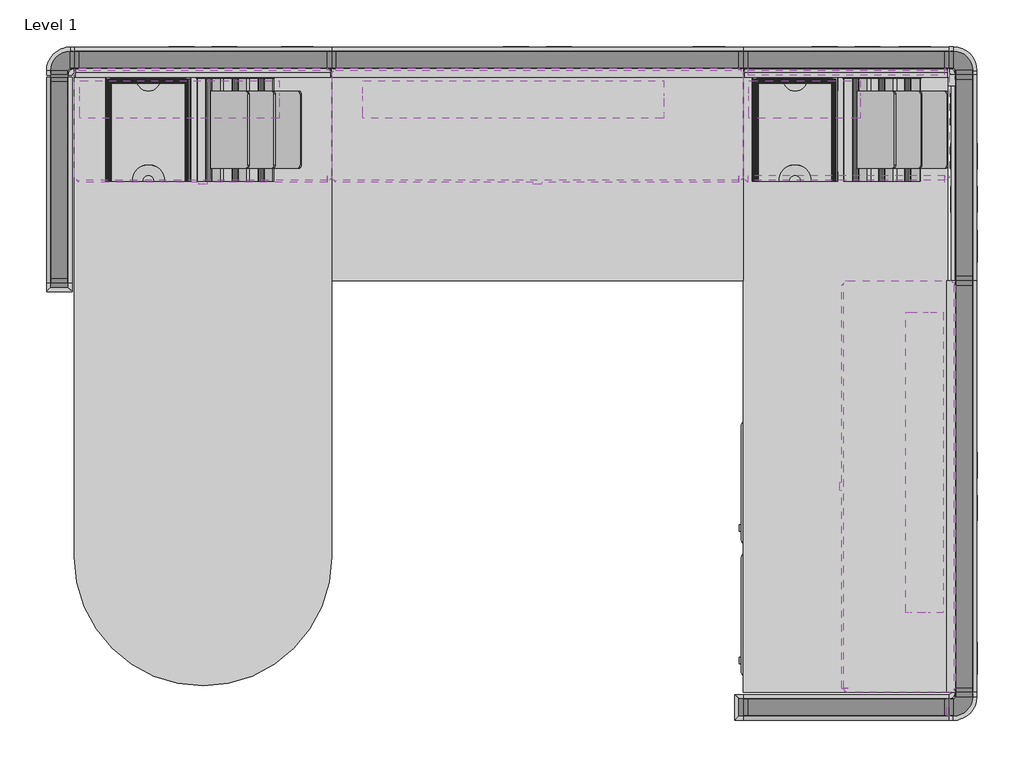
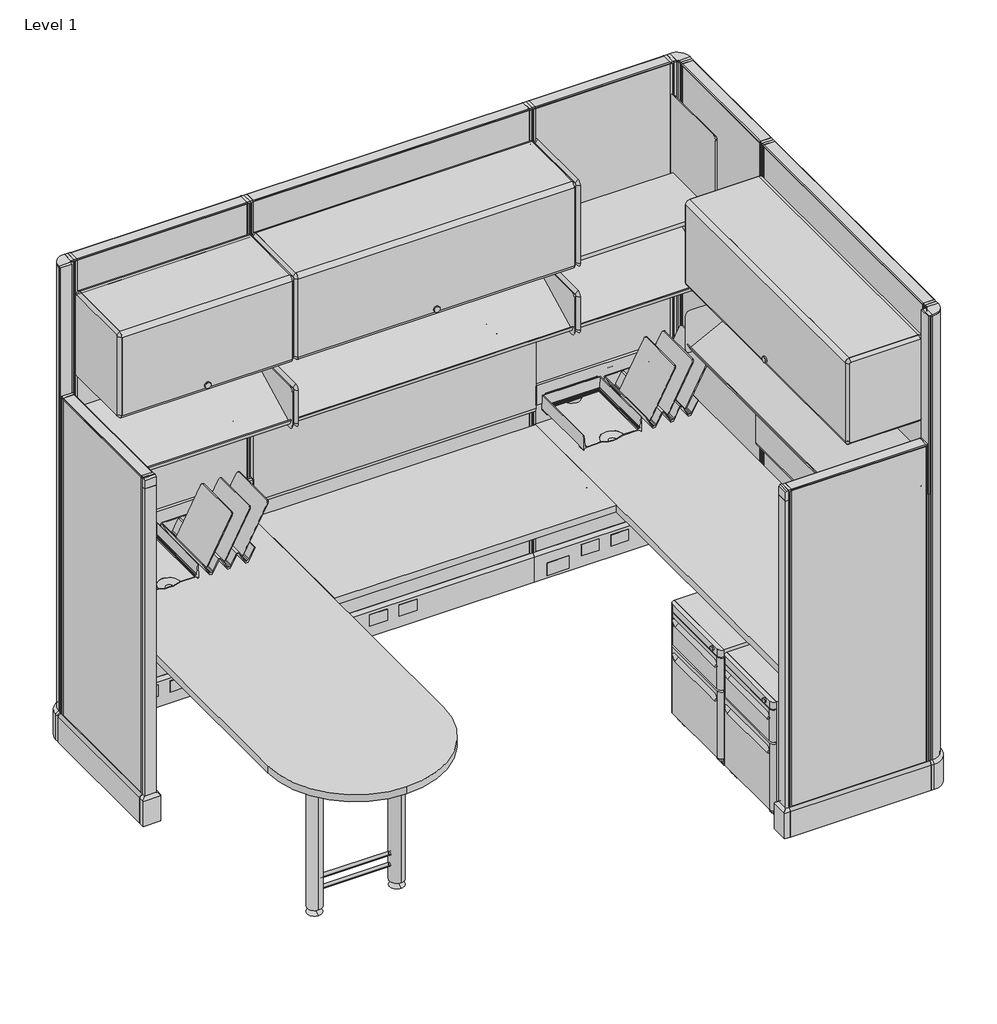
# One storey, incomplete: 36 furniture elements, 4 light fixtures.
"""IFC4 building model written with IfcOpenShell, lengths in millimetres."""

from ifc_helpers import new_model, si_unit, origin, place, context, project, spatial, transform, mapped, element, save
from components import furniture_84c54a78, furniture_0882e81d, furniture_31a6571c, furniture_314199cd, furniture_9b7a8d55, furniture_083a197f, furniture_f3dbc57d, furniture_2231b875, furniture_371e57b5, furniture_3e50636a, furniture_4dcc41e3, furniture_cb78dd66, furniture_6a59721d, furniture_4d9edb30, furniture_a2665887, furniture_75fc3fe0, furniture_5b942465, furniture_14ad5853, furniture_b927cfb1, furniture_fb8f7aeb, furniture_14ab3327, furniture_0fa552dd, furniture_d6d106ba, light_fixture_6c250f8a, light_fixture_b5f3cc62, light_fixture_d29e1486

model = new_model("IFC4")

# Units and contexts
model_context = context("Model", 3, world=origin())
ifc_project = project(units=[si_unit("LENGTHUNIT", "METRE", prefix="MILLI")], contexts=[model_context])

# Site, building, storey
site = spatial("IfcSite", under=ifc_project)
building = spatial("IfcBuilding", under=site)
storey = spatial("IfcBuildingStorey", under=building, Name="Level 1", Elevation=0.0)

# Furniture
placement = place(None, origin())
furniture_shape = furniture_84c54a78(model_context)
element("IfcFurniture", 1, ObjectType="HermanMiller_QuadrantFiling_G5111_MobilePedestal : 21-1/2\"H x 20\"D x 15\"W BF", at=placement, inside=storey, context=model_context, shape_type="MappedRepresentation", body=[
    mapped(furniture_shape, transform((2238.517237, -1599.1274835, 0.0), x_axis=(0.0, -1.0, 0.0), y_axis=(1.0, 0.0, 0.0), z_axis=(0.0, 0.0, 1.0))),
])
element("IfcFurniture", 2, ObjectType="HermanMiller_QuadrantFiling_G5111_MobilePedestal : 21-1/2\"H x 20\"D x 15\"W BF", at=placement, inside=storey, context=model_context, shape_type="MappedRepresentation", body=[
    mapped(furniture_shape, transform((2238.517237, -1207.5560035, 0.0), x_axis=(0.0, -1.0, 0.0), y_axis=(1.0, 0.0, 0.0), z_axis=(0.0, 0.0, 1.0))),
])
furniture_2_shape = furniture_0882e81d(model_context)
element("IfcFurniture", 3, ObjectType="HermanMiller_ActionOffice_A1110_Hard-SurfacedPanelStandardBase : 62\"H x 24\"W-N", at=placement, inside=storey, context=model_context, shape_type="MappedRepresentation", body=[
    mapped(furniture_2_shape, transform((2286.00254, -1873.2461892, 0.0), x_axis=(-1.0, 0.0, 0.0), y_axis=(0.0, -1.0, 0.0), z_axis=(0.0, 0.0, 1.0))),
])
element("IfcFurniture", 4, ObjectType="HermanMiller_ActionOffice_A1110_Hard-SurfacedPanelStandardBase : 62\"H x 24\"W-N", at=placement, inside=storey, context=model_context, shape_type="MappedRepresentation", body=[
    mapped(furniture_2_shape, transform((-44.45, -311.1493635, 0.0), x_axis=(0.0, 1.0, 0.0), y_axis=(-1.0, 0.0, 0.0), z_axis=(0.0, 0.0, 1.0))),
])
furniture_3_shape = furniture_31a6571c(model_context)
element("IfcFurniture", 5, ObjectType="HermanMiller_ActionOffice_A1110_Hard-SurfacedPanelStandardBase : 85\"H x 24\"W-G", at=placement, inside=storey, context=model_context, shape_type="MappedRepresentation", body=[
    mapped(furniture_3_shape, transform((2286.0, 44.4531765, 0.0), x_axis=(1.0, 0.0, 0.0), y_axis=(0.0, 1.0, 0.0), z_axis=(0.0, 0.0, 1.0))),
])
element("IfcFurniture", 6, ObjectType="HermanMiller_ActionOffice_A1110_Hard-SurfacedPanelStandardBase : 85\"H x 24\"W-G", at=placement, inside=storey, context=model_context, shape_type="MappedRepresentation", body=[
    mapped(furniture_3_shape, transform((2635.25, -304.2988642, 0.0), x_axis=(0.0, -1.0, 0.0), y_axis=(1.0, 0.0, 0.0), z_axis=(0.0, 0.0, 1.0))),
])
furniture_4_shape = furniture_314199cd(model_context)
element("IfcFurniture", 7, ObjectType="HermanMiller_ActionOffice_A1110_Hard-SurfacedPanelStandardBase : 85\"H x 30\"W-G", at=placement, inside=storey, context=model_context, shape_type="MappedRepresentation", body=[
    mapped(furniture_4_shape, transform((381.0, 44.4531765, 0.0), x_axis=(1.0, 0.0, 0.0), y_axis=(0.0, 1.0, 0.0), z_axis=(0.0, 0.0, 1.0))),
])
furniture_5_shape = furniture_9b7a8d55(model_context)
element("IfcFurniture", 8, ObjectType="HermanMiller_ActionOffice_A1110_Hard-SurfacedPanelStandardBase : 85\"H x 48\"W-G", at=placement, inside=storey, context=model_context, shape_type="MappedRepresentation", body=[
    mapped(furniture_5_shape, transform((1371.6, 44.4531765, 0.0), x_axis=(1.0, 0.0, 0.0), y_axis=(0.0, 1.0, 0.0), z_axis=(0.0, 0.0, 1.0))),
])
element("IfcFurniture", 9, ObjectType="HermanMiller_ActionOffice_A1110_Hard-SurfacedPanelStandardBase : 85\"H x 48\"W-G", at=placement, inside=storey, context=model_context, shape_type="MappedRepresentation", body=[
    mapped(furniture_5_shape, transform((2635.25, -1219.1968235, 0.0), x_axis=(0.0, -1.0, 0.0), y_axis=(1.0, 0.0, 0.0), z_axis=(0.0, 0.0, 1.0))),
])
furniture_6_shape = furniture_083a197f(model_context)
element("IfcFurniture", 10, ObjectType="HermanMiller_ActionOffice_A2310_Sq-EdgeRectangularWorkSurface : 24\"D x 48\"W", at=placement, inside=storey, context=model_context, shape_type="MappedRepresentation", body=[
    mapped(furniture_6_shape, transform((1371.6, -295.2718235, 0.0), x_axis=(1.0, 0.0, 0.0), y_axis=(0.0, 1.0, 0.0), z_axis=(0.0, 0.0, 1.0))),
])
furniture_7_shape = furniture_f3dbc57d(model_context)
element("IfcFurniture", 11, ObjectType="HermanMiller_ActionOffice_A2310_Sq-EdgeRectangularWorkSurface : 24\"D x 72\"W", at=placement, inside=storey, context=model_context, shape_type="MappedRepresentation", body=[
    mapped(furniture_7_shape, transform((2295.525, -914.3968235, 0.0), x_axis=(0.0, -1.0, 0.0), y_axis=(1.0, 0.0, 0.0), z_axis=(0.0, 0.0, 1.0))),
])
furniture_8_shape = furniture_2231b875(model_context)
element("IfcFurniture", 12, ObjectType="HermanMiller_ActionOffice_A2350_Sq-EdgeRound-EndPeninsula : 30\"D x 72\"W", at=placement, inside=storey, context=model_context, shape_type="MappedRepresentation", body=[
    mapped(furniture_8_shape, transform((381.0, -361.9468235, 0.0), x_axis=(1.0, 0.0, 0.0), y_axis=(0.0, 1.0, 0.0), z_axis=(0.0, 0.0, 1.0))),
])
furniture_9_shape = furniture_371e57b5(model_context)
element("IfcFurniture", 13, ObjectType="HermanMiller_ActionOffice_A3210_B-StyleShelf : 15-1/2H 13D 24W", at=placement, inside=storey, context=model_context, shape_type="MappedRepresentation", body=[
    mapped(furniture_9_shape, transform((2409.9420045, -161.9218235, 0.0), x_axis=(1.0, 0.0, 0.0), y_axis=(0.0, 1.0, 0.0), z_axis=(0.0, 0.0, 1.0))),
])
furniture_10_shape = furniture_3e50636a(model_context)
element("IfcFurniture", 14, ObjectType="HermanMiller_ActionOffice_A3352_B-StyleFlipperDoorUnit : 15 1/2\"H x 13\"D x 30\"W", at=placement, inside=storey, context=model_context, shape_type="MappedRepresentation", body=[
    mapped(furniture_10_shape, transform((381.0, -161.9218235, 0.0), x_axis=(1.0, 0.0, 0.0), y_axis=(0.0, 1.0, 0.0), z_axis=(0.0, 0.0, 1.0))),
])
furniture_11_shape = furniture_4dcc41e3(model_context)
element("IfcFurniture", 15, ObjectType="HermanMiller_ActionOffice_A3352_B-StyleFlipperDoorUnit : 15 1/2\"H x 13\"D x 48\"W", at=placement, inside=storey, context=model_context, shape_type="MappedRepresentation", body=[
    mapped(furniture_11_shape, transform((2428.875, -1219.1968235, 0.0), x_axis=(0.0, -1.0, 0.0), y_axis=(1.0, 0.0, 0.0), z_axis=(0.0, 0.0, 1.0))),
])
element("IfcFurniture", 16, ObjectType="HermanMiller_ActionOffice_A3352_B-StyleFlipperDoorUnit : 15 1/2\"H x 13\"D x 48\"W", at=placement, inside=storey, context=model_context, shape_type="MappedRepresentation", body=[
    mapped(furniture_11_shape, transform((1371.6, -161.9218235, 0.0), x_axis=(1.0, 0.0, 0.0), y_axis=(0.0, 1.0, 0.0), z_axis=(0.0, 0.0, 1.0))),
])
furniture_12_shape = furniture_cb78dd66(model_context)
element("IfcFurniture", 17, ObjectType="HermanMiller_ActionOffice_A3410_B-StyleTackboard : 16\"H x 48\"W", at=placement, inside=storey, context=model_context, shape_type="MappedRepresentation", body=[
    mapped(furniture_12_shape, transform((2597.15, -1219.1968235, 0.0), x_axis=(0.0, -1.0, 0.0), y_axis=(1.0, 0.0, 0.0), z_axis=(0.0, 0.0, 1.0))),
])
element("IfcFurniture", 18, ObjectType="HermanMiller_ActionOffice_A3410_B-StyleTackboard : 16\"H x 48\"W", at=placement, inside=storey, context=model_context, shape_type="MappedRepresentation", body=[
    mapped(furniture_12_shape, transform((1371.6, 6.3531765, 0.0), x_axis=(1.0, 0.0, 0.0), y_axis=(0.0, 1.0, 0.0), z_axis=(0.0, 0.0, 1.0))),
])
furniture_13_shape = furniture_6a59721d(model_context)
element("IfcFurniture", 19, ObjectType="HermanMiller_ActionOffice_A3610_ToolBar : 4\"H x 24\"W", at=placement, inside=storey, context=model_context, shape_type="MappedRepresentation", body=[
    mapped(furniture_13_shape, transform((2286.0, 6.3531769, 0.0), x_axis=(1.0, 0.0, 0.0), y_axis=(0.0, 1.0, 0.0), z_axis=(0.0, 0.0, 1.0))),
])
furniture_14_shape = furniture_4d9edb30(model_context)
element("IfcFurniture", 20, ObjectType="HermanMiller_ActionOffice_A3610_ToolBar : 4\"H x 30\"W", at=placement, inside=storey, context=model_context, shape_type="MappedRepresentation", body=[
    mapped(furniture_14_shape, transform((381.0, 6.3531769, 0.0), x_axis=(1.0, 0.0, 0.0), y_axis=(0.0, 1.0, 0.0), z_axis=(0.0, 0.0, 1.0))),
])
furniture_15_shape = furniture_a2665887(model_context)
element("IfcFurniture", 21, ObjectType="HermanMiller_ThrivePortfolio_Y7216_PaperTray : 3\"H x 12\"D x 10\"W", at=placement, inside=storey, context=model_context, shape_type="MappedRepresentation", body=[
    mapped(furniture_15_shape, transform((218.9861, -160.3673435, 0.0), x_axis=(1.0, 0.0, 0.0), y_axis=(0.0, 1.0, 0.0), z_axis=(0.0, 0.0, 1.0))),
])
element("IfcFurniture", 22, ObjectType="HermanMiller_ThrivePortfolio_Y7216_PaperTray : 3\"H x 12\"D x 10\"W", at=placement, inside=storey, context=model_context, shape_type="MappedRepresentation", body=[
    mapped(furniture_15_shape, transform((218.9861, -160.3673435, 0.0), x_axis=(1.0, 0.0, 0.0), y_axis=(0.0, 1.0, 0.0), z_axis=(0.0, 0.0, 1.0))),
])
element("IfcFurniture", 23, ObjectType="HermanMiller_ThrivePortfolio_Y7216_PaperTray : 3\"H x 12\"D x 10\"W", at=placement, inside=storey, context=model_context, shape_type="MappedRepresentation", body=[
    mapped(furniture_15_shape, transform((2134.34422, -160.3673435, 0.0), x_axis=(1.0, 0.0, 0.0), y_axis=(0.0, 1.0, 0.0), z_axis=(0.0, 0.0, 1.0))),
])
furniture_16_shape = furniture_75fc3fe0(model_context)
element("IfcFurniture", 24, ObjectType="HermanMiller_ThrivePortfolio_Y7218_DiagonalTray : 8 1/2\"H x 12\"D x 13\"W", at=placement, inside=storey, context=model_context, shape_type="MappedRepresentation", body=[
    mapped(furniture_16_shape, transform((2392.016817, -160.3673435, 0.0), x_axis=(1.0, 0.0, 0.0), y_axis=(0.0, 1.0, 0.0), z_axis=(0.0, 0.0, 1.0))),
])
element("IfcFurniture", 25, ObjectType="HermanMiller_ThrivePortfolio_Y7218_DiagonalTray : 8 1/2\"H x 12\"D x 13\"W", at=placement, inside=storey, context=model_context, shape_type="MappedRepresentation", body=[
    mapped(furniture_16_shape, transform((476.656157, -160.3673435, 0.0), x_axis=(1.0, 0.0, 0.0), y_axis=(0.0, 1.0, 0.0), z_axis=(0.0, 0.0, 1.0))),
])
furniture_17_shape = furniture_5b942465(model_context)
element("IfcFurniture", 26, ObjectType="HermanMiller_ActionOffice_A3220_B-StyleStorageDisplay : Display 13\"D x 24\"W", at=placement, inside=storey, context=model_context, shape_type="MappedRepresentation", body=[
    mapped(furniture_17_shape, transform((2409.9420045, -161.9218235, 0.0), x_axis=(1.0, 0.0, 0.0), y_axis=(0.0, 1.0, 0.0), z_axis=(0.0, 0.0, 1.0))),
])
furniture_18_shape = furniture_14ad5853(model_context)
element("IfcFurniture", 27, ObjectType="HermanMiller_ActionOffice_A3220_B-StyleStorageDisplay : Display 13\"D x 30\"W", at=placement, inside=storey, context=model_context, shape_type="MappedRepresentation", body=[
    mapped(furniture_18_shape, transform((504.9420045, -161.9218235, 0.0), x_axis=(1.0, 0.0, 0.0), y_axis=(0.0, 1.0, 0.0), z_axis=(0.0, 0.0, 1.0))),
])
furniture_19_shape = furniture_b927cfb1(model_context)
element("IfcFurniture", 28, ObjectType="HermanMiller_ActionOffice_A3220_B-StyleStorageDisplay : Display 13\"D x 48\"W", at=placement, inside=storey, context=model_context, shape_type="MappedRepresentation", body=[
    mapped(furniture_19_shape, transform((2428.875, -1343.138828, 0.0), x_axis=(0.0, -1.0, 0.0), y_axis=(1.0, 0.0, 0.0), z_axis=(0.0, 0.0, 1.0))),
])
element("IfcFurniture", 29, ObjectType="HermanMiller_ActionOffice_A3220_B-StyleStorageDisplay : Display 13\"D x 48\"W", at=placement, inside=storey, context=model_context, shape_type="MappedRepresentation", body=[
    mapped(furniture_19_shape, transform((1495.5420045, -161.9218235, 0.0), x_axis=(1.0, 0.0, 0.0), y_axis=(0.0, 1.0, 0.0), z_axis=(0.0, 0.0, 1.0))),
])
furniture_20_shape = furniture_fb8f7aeb(model_context)
element("IfcFurniture", 30, ObjectType="HermanMiller_ActionOffice_AO259_AO272_FinishedEndChangeOfHeight : 32\"H Panel/Conn", at=placement, inside=storey, context=model_context, shape_type="MappedRepresentation", body=[
    mapped(furniture_20_shape, transform((2523.9315433, -1793.6751925, 0.0), x_axis=(-1.0, 0.0, 0.0), y_axis=(0.0, -1.0, 0.0), z_axis=(0.0, 0.0, 1.0))),
])
furniture_21_shape = furniture_14ab3327(model_context)
element("IfcFurniture", 31, ObjectType="HermanMiller_ActionOffice_AO259_AO272_FinishedEndChangeOfHeight : 32\"H Panel/Conn", at=placement, inside=storey, context=model_context, shape_type="MappedRepresentation", body=[
    mapped(furniture_21_shape, transform((-124.0209967, -66.8703623, 0.0), x_axis=(0.0, -1.0, 0.0), y_axis=(1.0, 0.0, 0.0), z_axis=(0.0, 0.0, 1.0))),
])
furniture_22_shape = furniture_0fa552dd(model_context)
element("IfcFurniture", 32, ObjectType="HermanMiller_ActionOffice_A1271_FinishedEndStandardBase : 62\"H", at=placement, inside=storey, context=model_context, shape_type="MappedRepresentation", body=[
    mapped(furniture_22_shape, transform((3966.0585912, -4321.9849769, 0.0), x_axis=(-1.0, 0.0, 0.0), y_axis=(0.0, -1.0, 0.0), z_axis=(0.0, 0.0, 1.0))),
])
element("IfcFurniture", 33, ObjectType="HermanMiller_ActionOffice_A1271_FinishedEndStandardBase : 62\"H", at=placement, inside=storey, context=model_context, shape_type="MappedRepresentation", body=[
    mapped(furniture_22_shape, transform((2404.2887877, 1368.9066877, 0.0), x_axis=(0.0, -1.0, 0.0), y_axis=(1.0, 0.0, 0.0), z_axis=(0.0, 0.0, 1.0))),
])
furniture_23_shape = furniture_d6d106ba(model_context)
element("IfcFurniture", 34, ObjectType="HermanMiller_ActionOffice_A1220_90ConnectorStandardBase : 85\"H 2-Way-Hard", at=placement, inside=storey, context=model_context, shape_type="MappedRepresentation", body=[
    mapped(furniture_23_shape, transform((2628.9, 30.4371944, 0.0), x_axis=(1.0, 0.0, 0.0), y_axis=(0.0, 1.0, 0.0), z_axis=(0.0, 0.0, 1.0))),
])
element("IfcFurniture", 35, ObjectType="HermanMiller_ActionOffice_A1220_90ConnectorStandardBase : 85\"H 2-Way-Hard", at=placement, inside=storey, context=model_context, shape_type="MappedRepresentation", body=[
    mapped(furniture_23_shape, transform((2620.7385986, -1866.8968235, 0.0), x_axis=(0.0, -1.0, 0.0), y_axis=(1.0, 0.0, 0.0), z_axis=(0.0, 0.0, 1.0))),
])
element("IfcFurniture", 36, ObjectType="HermanMiller_ActionOffice_A1220_90ConnectorStandardBase : 85\"H 2-Way-Hard", at=placement, inside=storey, context=model_context, shape_type="MappedRepresentation", body=[
    mapped(furniture_23_shape, transform((-29.9360586, 38.1006343, 0.0), x_axis=(0.0, 1.0, 0.0), y_axis=(-1.0, 0.0, 0.0), z_axis=(0.0, 0.0, 1.0))),
])

# Light fixtures
light_fixture_shape = light_fixture_6c250f8a(model_context)
element("IfcLightFixture", 37, ObjectType="HermanMiller_SupplementalProducts_G6136_UtilityTaskLight : AO Etho Canvas 24W", at=placement, inside=storey, context=model_context, shape_type="MappedRepresentation", body=[
    mapped(light_fixture_shape, transform((2162.43154, -73.0218235, 0.0), x_axis=(1.0, 0.0, 0.0), y_axis=(0.0, 1.0, 0.0), z_axis=(0.0, 0.0, 1.0))),
])
light_fixture_2_shape = light_fixture_b5f3cc62(model_context)
element("IfcLightFixture", 38, ObjectType="HermanMiller_SupplementalProducts_G6136_UtilityTaskLight : AO Etho Canvas 30W", at=placement, inside=storey, context=model_context, shape_type="MappedRepresentation", body=[
    mapped(light_fixture_2_shape, transform((311.531, -73.0218235, 0.0), x_axis=(1.0, 0.0, 0.0), y_axis=(0.0, 1.0, 0.0), z_axis=(0.0, 0.0, 1.0))),
])
light_fixture_3_shape = light_fixture_d29e1486(model_context)
element("IfcLightFixture", 39, ObjectType="HermanMiller_SupplementalProducts_G6136_UtilityTaskLight : AO Etho Canvas 42W", at=placement, inside=storey, context=model_context, shape_type="MappedRepresentation", body=[
    mapped(light_fixture_3_shape, transform((2517.78262, -1147.3173635, 0.0), x_axis=(0.0, -1.0, 0.0), y_axis=(1.0, 0.0, 0.0), z_axis=(0.0, 0.0, 1.0))),
])
element("IfcLightFixture", 40, ObjectType="HermanMiller_SupplementalProducts_G6136_UtilityTaskLight : AO Etho Canvas 42W", at=placement, inside=storey, context=model_context, shape_type="MappedRepresentation", body=[
    mapped(light_fixture_3_shape, transform((1299.718, -73.0218235, 0.0), x_axis=(1.0, 0.0, 0.0), y_axis=(0.0, 1.0, 0.0), z_axis=(0.0, 0.0, 1.0))),
])

save(model, "model.ifc")
